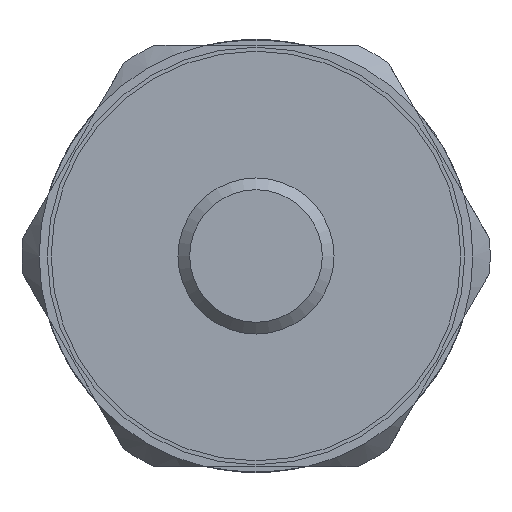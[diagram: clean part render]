
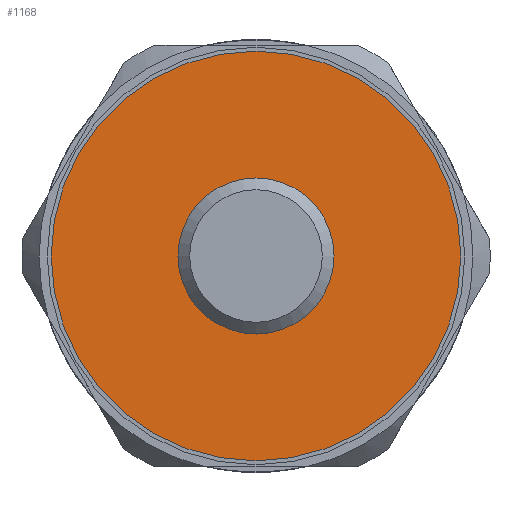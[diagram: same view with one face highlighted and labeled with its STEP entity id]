
A CAD part, left-side view. The second image highlights one B-rep face of the part: STEP entity #1168.
In plain terms, the highlighted planar face has unit normal (-1, 0, 0).
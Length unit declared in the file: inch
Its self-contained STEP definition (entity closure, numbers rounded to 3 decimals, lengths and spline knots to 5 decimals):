
#57=FACE_BOUND('',#202,.T.);
#83=PLANE('',#1310);
#133=FACE_OUTER_BOUND('',#201,.T.);
#201=EDGE_LOOP('',(#923,#924));
#202=EDGE_LOOP('',(#925,#926));
#352=CIRCLE('',#1255,0.14764);
#353=CIRCLE('',#1256,0.14764);
#382=CIRCLE('',#1311,0.41339);
#383=CIRCLE('',#1312,0.41339);
#448=VERTEX_POINT('',#1817);
#449=VERTEX_POINT('',#1818);
#502=VERTEX_POINT('',#2026);
#503=VERTEX_POINT('',#2027);
#575=EDGE_CURVE('',#448,#449,#352,.T.);
#576=EDGE_CURVE('',#449,#448,#353,.T.);
#656=EDGE_CURVE('',#502,#503,#382,.T.);
#657=EDGE_CURVE('',#503,#502,#383,.T.);
#923=ORIENTED_EDGE('',*,*,#656,.T.);
#924=ORIENTED_EDGE('',*,*,#657,.T.);
#925=ORIENTED_EDGE('',*,*,#575,.T.);
#926=ORIENTED_EDGE('',*,*,#576,.T.);
#1168=ADVANCED_FACE('',(#133,#57),#83,.T.);
#1255=AXIS2_PLACEMENT_3D('',#1819,#1464,#1465);
#1256=AXIS2_PLACEMENT_3D('',#1820,#1466,#1467);
#1310=AXIS2_PLACEMENT_3D('',#2025,#1601,#1602);
#1311=AXIS2_PLACEMENT_3D('',#2028,#1603,#1604);
#1312=AXIS2_PLACEMENT_3D('',#2029,#1605,#1606);
#1464=DIRECTION('center_axis',(1.,0.,0.));
#1465=DIRECTION('ref_axis',(0.,0.866,-0.5));
#1466=DIRECTION('center_axis',(1.,0.,0.));
#1467=DIRECTION('ref_axis',(0.,0.866,-0.5));
#1601=DIRECTION('center_axis',(-1.,0.,0.));
#1602=DIRECTION('ref_axis',(0.,0.866,-0.5));
#1603=DIRECTION('center_axis',(-1.,0.,0.));
#1604=DIRECTION('ref_axis',(0.,0.866,-0.5));
#1605=DIRECTION('center_axis',(-1.,0.,0.));
#1606=DIRECTION('ref_axis',(0.,0.866,-0.5));
#1817=CARTESIAN_POINT('',(-2.25408,0.22916,-0.41816));
#1818=CARTESIAN_POINT('',(-2.25408,-0.02656,-0.27052));
#1819=CARTESIAN_POINT('Origin',(-2.25408,0.1013,-0.34434));
#1820=CARTESIAN_POINT('Origin',(-2.25408,0.1013,-0.34434));
#2025=CARTESIAN_POINT('Origin',(-2.25408,0.1013,-0.34434));
#2026=CARTESIAN_POINT('',(-2.25408,0.4593,-0.55103));
#2027=CARTESIAN_POINT('',(-2.25408,-0.2567,-0.13765));
#2028=CARTESIAN_POINT('Origin',(-2.25408,0.1013,-0.34434));
#2029=CARTESIAN_POINT('Origin',(-2.25408,0.1013,-0.34434));
